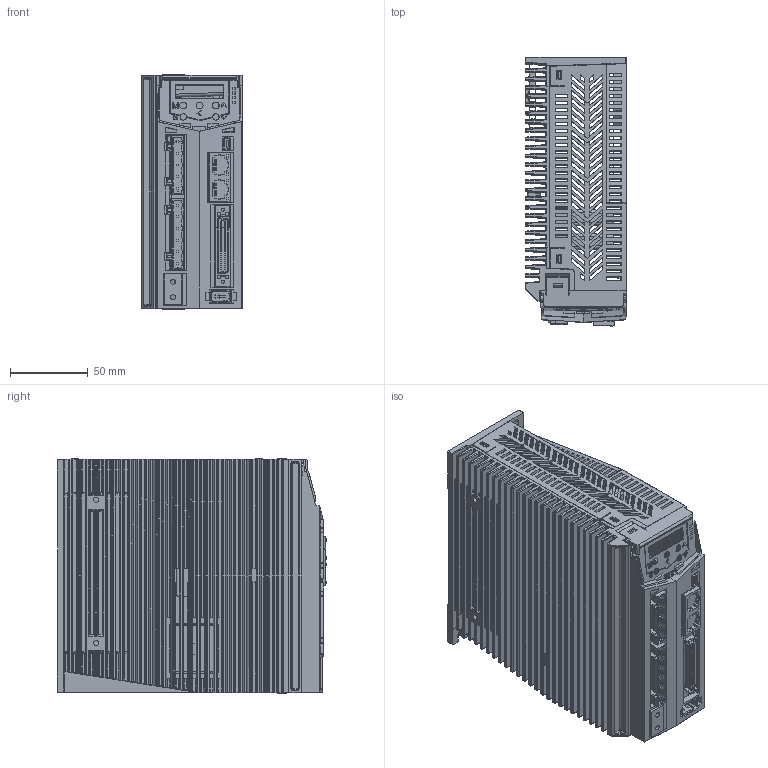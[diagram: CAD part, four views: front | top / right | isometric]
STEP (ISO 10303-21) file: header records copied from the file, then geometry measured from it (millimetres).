
FILE_DESCRIPTION (( 'STEP AP203' ), '1' );
FILE_NAME ('3D芞祧 2倰B1E V1.0.STEP', '2022-10-12T08:01:17', ( 'Microsoft' ), ( 'Microsoft' ), 'SwSTEP 2.0', 'SolidWorks 2020', '' );
FILE_SCHEMA (( 'CONFIG_CONTROL_DESIGN' ));
Products named in the file (1): 3D芞祧 2倰B1E V1.0
Bounding box: 65.32 x 172.97 x 150.3 mm (x, y, z)
Surface area: 248510 mm2 (no closed solid volume)
Topology: 0 solids, 110 shells, 3250 faces, 14265 edges, 10565 vertices
Faces by surface type: plane 2330, cylinder 630, bspline 276, cone 14
Entity records: 156774 total; most frequent: CARTESIAN_POINT 52200, ORIENTED_EDGE 21289, DIRECTION 17091, EDGE_CURVE 14143, VERTEX_POINT 10565, VECTOR 9697, LINE 9697, EDGE_LOOP 3747
